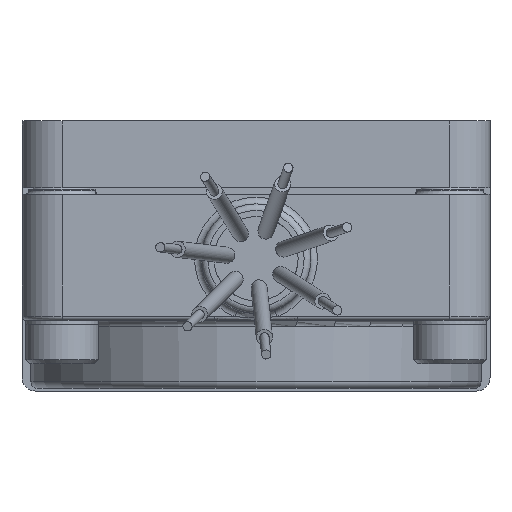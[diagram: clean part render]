
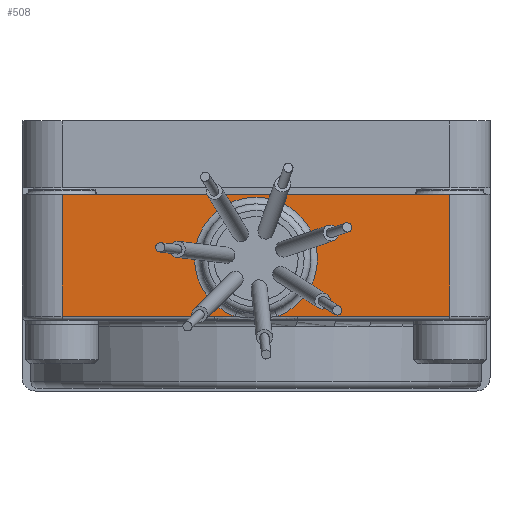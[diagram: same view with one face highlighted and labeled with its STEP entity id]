
A CAD part, front view. The second image highlights one B-rep face of the part: STEP entity #508.
In plain terms, the highlighted planar face has unit normal (0, -1, 0).
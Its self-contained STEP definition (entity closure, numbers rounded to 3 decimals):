
#508=ADVANCED_FACE('NONE',(#1233),#1234,.F.);
#1233=FACE_OUTER_BOUND('',#2629,.T.);
#1234=PLANE('',#2630);
#2629=EDGE_LOOP('',(#4130,#4131,#4132,#4133,#4134,#4135,#4136,#4137));
#2630=AXIS2_PLACEMENT_3D('',#4138,#4139,#4140);
#4130=ORIENTED_EDGE('',*,*,#5493,.T.);
#4131=ORIENTED_EDGE('',*,*,#5861,.T.);
#4132=ORIENTED_EDGE('',*,*,#5492,.T.);
#4133=ORIENTED_EDGE('',*,*,#5862,.T.);
#4134=ORIENTED_EDGE('',*,*,#5563,.T.);
#4135=ORIENTED_EDGE('',*,*,#5863,.F.);
#4136=ORIENTED_EDGE('',*,*,#5844,.T.);
#4137=ORIENTED_EDGE('',*,*,#5761,.T.);
#4138=CARTESIAN_POINT('',(17.5,-49.5,8.0));
#4139=DIRECTION('',(-0.0,1.0,0.0));
#4140=DIRECTION('',(1.0,0.0,0.0));
#5492=EDGE_CURVE('NONE',#6288,#6303,#6304,.T.);
#5493=EDGE_CURVE('NONE',#6305,#6286,#6306,.T.);
#5563=EDGE_CURVE('NONE',#6426,#6427,#6428,.T.);
#5761=EDGE_CURVE('NONE',#6737,#6305,#6742,.T.);
#5844=EDGE_CURVE('NONE',#6866,#6737,#6867,.T.);
#5861=EDGE_CURVE('NONE',#6286,#6288,#6889,.T.);
#5862=EDGE_CURVE('NONE',#6303,#6426,#6890,.T.);
#5863=EDGE_CURVE('NONE',#6866,#6427,#6891,.T.);
#6286=VERTEX_POINT('NONE',#7486);
#6288=VERTEX_POINT('NONE',#7488);
#6303=VERTEX_POINT('NONE',#7519);
#6304=B_SPLINE_CURVE_WITH_KNOTS('',3,(#7520,#7521,#7522,#7523),.UNSPECIFIED.,.F.,.F.,(4,4),(0.005,0.006),.UNSPECIFIED.);
#6305=VERTEX_POINT('NONE',#7524);
#6306=B_SPLINE_CURVE_WITH_KNOTS('',3,(#7525,#7526,#7527,#7528),.UNSPECIFIED.,.F.,.F.,(4,4),(0.0,0.002),.UNSPECIFIED.);
#6426=VERTEX_POINT('NONE',#7770);
#6427=VERTEX_POINT('NONE',#7771);
#6428=LINE('',#7772,#7773);
#6737=VERTEX_POINT('NONE',#8197);
#6742=LINE('',#8204,#8205);
#6866=VERTEX_POINT('NONE',#8404);
#6867=LINE('',#8405,#8406);
#6889=CIRCLE('',#8434,4.6);
#6890=LINE('',#8435,#8436);
#6891=LINE('',#8437,#8438);
#7486=CARTESIAN_POINT('',(-1.556,-49.5,-1.129));
#7488=CARTESIAN_POINT('',(1.556,-49.5,-1.129));
#7519=CARTESIAN_POINT('',(3.132,-49.5,-1.1));
#7520=CARTESIAN_POINT('',(1.556,-49.5,-1.129));
#7521=CARTESIAN_POINT('',(2.081,-49.5,-1.116));
#7522=CARTESIAN_POINT('',(2.607,-49.5,-1.1));
#7523=CARTESIAN_POINT('',(3.132,-49.5,-1.1));
#7524=CARTESIAN_POINT('',(-3.132,-49.5,-1.1));
#7525=CARTESIAN_POINT('',(-3.132,-49.5,-1.1));
#7526=CARTESIAN_POINT('',(-2.607,-49.5,-1.1));
#7527=CARTESIAN_POINT('',(-2.081,-49.5,-1.116));
#7528=CARTESIAN_POINT('',(-1.556,-49.5,-1.129));
#7770=CARTESIAN_POINT('',(14.5,-49.5,-1.1));
#7771=CARTESIAN_POINT('',(14.5,-49.5,8.0));
#7772=CARTESIAN_POINT('',(14.5,-49.5,8.0));
#7773=VECTOR('',#9259,1.0);
#8197=CARTESIAN_POINT('',(-14.5,-49.5,-1.1));
#8204=CARTESIAN_POINT('',(14.5,-49.5,-1.1));
#8205=VECTOR('',#9550,1.0);
#8404=CARTESIAN_POINT('',(-14.5,-49.5,8.0));
#8405=CARTESIAN_POINT('',(-14.5,-49.5,8.0));
#8406=VECTOR('',#9671,1.0);
#8434=AXIS2_PLACEMENT_3D('',#9693,#9694,#9695);
#8435=CARTESIAN_POINT('',(14.5,-49.5,-1.1));
#8436=VECTOR('',#9696,1.0);
#8437=CARTESIAN_POINT('',(17.5,-49.5,8.0));
#8438=VECTOR('',#9697,1.0);
#9259=DIRECTION('',(0.0,0.0,1.0));
#9550=DIRECTION('',(1.0,0.0,0.0));
#9671=DIRECTION('',(0.0,0.0,-1.0));
#9693=CARTESIAN_POINT('',(0.,-49.5,3.2));
#9694=DIRECTION('',(0.0,1.0,0.0));
#9695=DIRECTION('',(0.0,0.0,-1.0));
#9696=DIRECTION('',(1.0,0.0,0.0));
#9697=DIRECTION('',(1.0,0.0,0.0));
